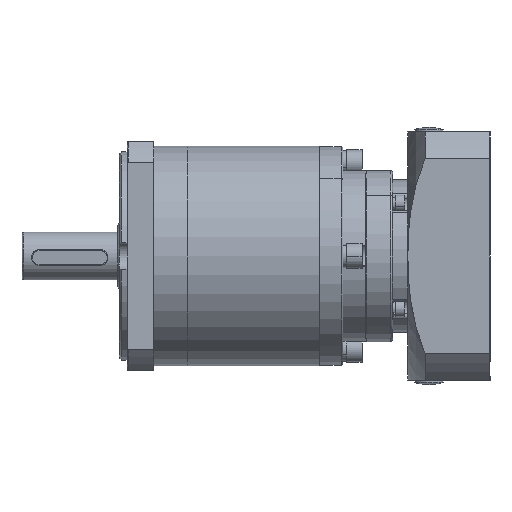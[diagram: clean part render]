
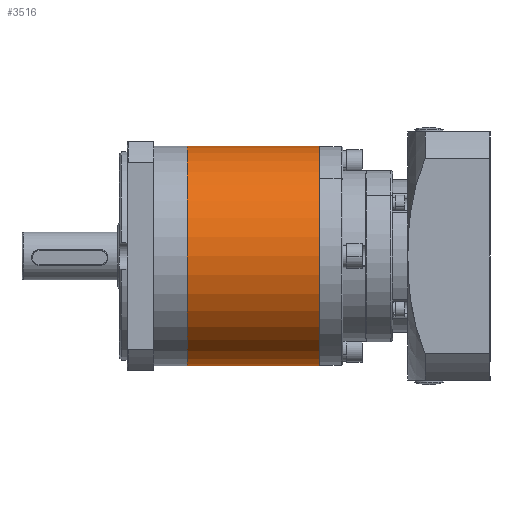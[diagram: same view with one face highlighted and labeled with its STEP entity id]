
A CAD part, front view. The second image highlights one B-rep face of the part: STEP entity #3516.
In plain terms, the highlighted cylindrical face has radius 57.5 mm (diameter 115 mm), a partial arc.
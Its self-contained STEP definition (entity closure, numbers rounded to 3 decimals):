
#1111 = DIRECTION ( 'NONE',  ( -1., 0., 0. ) ) ;
#3516 = ADVANCED_FACE ( 'NONE', ( #16953 ), #42701, .T. ) ;
#4995 = DIRECTION ( 'NONE',  ( 0., 0., 1. ) ) ;
#5033 = AXIS2_PLACEMENT_3D ( 'NONE', #14116, #37837, #22368 ) ;
#5562 = CARTESIAN_POINT ( 'NONE',  ( 35.5, 0., 57.5 ) ) ;
#7298 = CARTESIAN_POINT ( 'NONE',  ( 105., 0., -57.5 ) ) ;
#8554 = EDGE_CURVE ( 'NONE', #11214, #41689, #14409, .T. ) ;
#11214 = VERTEX_POINT ( 'NONE', #7298 ) ;
#13026 = ORIENTED_EDGE ( 'NONE', *, *, #50441, .F. ) ;
#13962 = ORIENTED_EDGE ( 'NONE', *, *, #17660, .T. ) ;
#14116 = CARTESIAN_POINT ( 'NONE',  ( 35.5, 0., 0. ) ) ;
#14409 = CIRCLE ( 'NONE', #25292, 57.5 ) ;
#15589 = CARTESIAN_POINT ( 'NONE',  ( 35.5, 0., 57.5 ) ) ;
#16953 = FACE_OUTER_BOUND ( 'NONE', #21372, .T. ) ;
#17637 = AXIS2_PLACEMENT_3D ( 'NONE', #21740, #37904, #38092 ) ;
#17660 = EDGE_CURVE ( 'NONE', #27459, #11214, #29349, .T. ) ;
#18302 = ORIENTED_EDGE ( 'NONE', *, *, #28719, .F. ) ;
#18773 = CARTESIAN_POINT ( 'NONE',  ( 35.5, 0., -57.5 ) ) ;
#19515 = CARTESIAN_POINT ( 'NONE',  ( 35.5, 0., -57.5 ) ) ;
#21372 = EDGE_LOOP ( 'NONE', ( #13026, #18302, #13962, #24453 ) ) ;
#21740 = CARTESIAN_POINT ( 'NONE',  ( 35.5, 0., 0. ) ) ;
#22368 = DIRECTION ( 'NONE',  ( 0., 0., 1. ) ) ;
#24453 = ORIENTED_EDGE ( 'NONE', *, *, #8554, .T. ) ;
#24792 = CIRCLE ( 'NONE', #5033, 57.5 ) ;
#25292 = AXIS2_PLACEMENT_3D ( 'NONE', #49026, #1111, #4995 ) ;
#27459 = VERTEX_POINT ( 'NONE', #18773 ) ;
#28719 = EDGE_CURVE ( 'NONE', #27459, #33396, #24792, .T. ) ;
#29349 = LINE ( 'NONE', #19515, #38770 ) ;
#29599 = DIRECTION ( 'NONE',  ( 1., 0., 0. ) ) ;
#33396 = VERTEX_POINT ( 'NONE', #15589 ) ;
#36730 = DIRECTION ( 'NONE',  ( 1., 0., 0. ) ) ;
#37837 = DIRECTION ( 'NONE',  ( -1., 0., 0. ) ) ;
#37904 = DIRECTION ( 'NONE',  ( 1., 0., 0. ) ) ;
#38092 = DIRECTION ( 'NONE',  ( 0., 0., -1. ) ) ;
#38770 = VECTOR ( 'NONE', #36730, 1000. ) ;
#41689 = VERTEX_POINT ( 'NONE', #51551 ) ;
#42701 = CYLINDRICAL_SURFACE ( 'NONE', #17637, 57.5 ) ;
#46252 = VECTOR ( 'NONE', #29599, 1000. ) ;
#48791 = LINE ( 'NONE', #5562, #46252 ) ;
#49026 = CARTESIAN_POINT ( 'NONE',  ( 105., 0., 0. ) ) ;
#50441 = EDGE_CURVE ( 'NONE', #33396, #41689, #48791, .T. ) ;
#51551 = CARTESIAN_POINT ( 'NONE',  ( 105., 0., 57.5 ) ) ;
